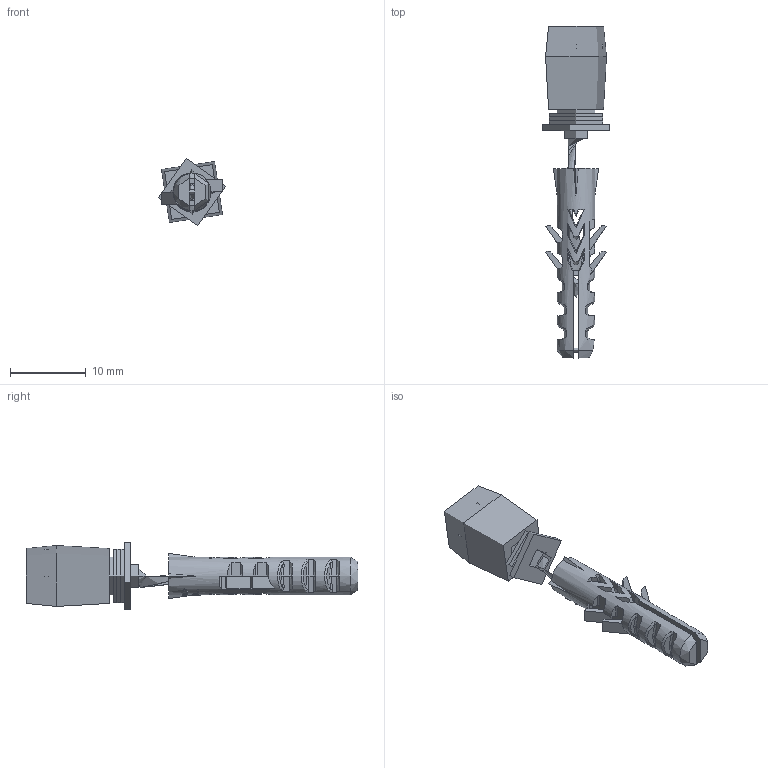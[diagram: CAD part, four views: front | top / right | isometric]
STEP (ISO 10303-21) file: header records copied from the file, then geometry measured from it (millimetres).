
FILE_DESCRIPTION(/* description */ ('Hülse'),/* implementation_level */ '2;1');
FILE_NAME(/* name */ 'Q:\sge-ma\Produktmanagement-STB\STB\Workspace\TraceParts\Bodenführungsrolle Nylon mit Dübel\010337701.stp',/* time_stamp */ '2018-03-05T12:03:36+01:00',/* author */ ('avschreier'),/* organization */ (''),/* preprocessor_version */ 'ST-DEVELOPER v16.1',/* originating_system */ 'Autodesk Inventor 2016',/* authorisation */ '');
FILE_SCHEMA (('CONFIG_CONTROL_DESIGN'));
Length unit declared in the file: millimetre
Products named in the file (7): 337000163; 337000164; DIN 7997 - 35 x 3; DIN_EN_ISO_7090-3,2_en; DIN_EN_ISO_7093-3,2_en; Dubel_F5; 010337701
Assembly tree (9 placements, depth 2):
  010337701
    337000163
    337000164
    DIN 7997 - 35 x 3
    DIN_EN_ISO_7090-3,2_en  x4
    DIN_EN_ISO_7093-3,2_en
    Dubel_F5
Bounding box: 8.87 x 43.8 x 8.87 mm (x, y, z)
Volume: 1149.7 mm3; surface area: 2477.1 mm2
Topology: 9 solids, 9 shells, 430 faces, 1151 edges, 749 vertices
Faces by surface type: plane 218, bspline 113, cylinder 93, cone 6
Full cylindrical faces by diameter (mm): 0.6 x1, 2.1 x13, 3 x1, 3.2 x5, 3.4 x1, 3.95 x1, 5 x2, 5.4 x1, 5.6 x1, 7 x4, 7.5 x1, 9 x1
Entity records: 18606 total; most frequent: CARTESIAN_POINT 9011, ORIENTED_EDGE 2124, DIRECTION 1652, EDGE_CURVE 1062, VERTEX_POINT 701, LINE 572, VECTOR 572, AXIS2_PLACEMENT_3D 540
